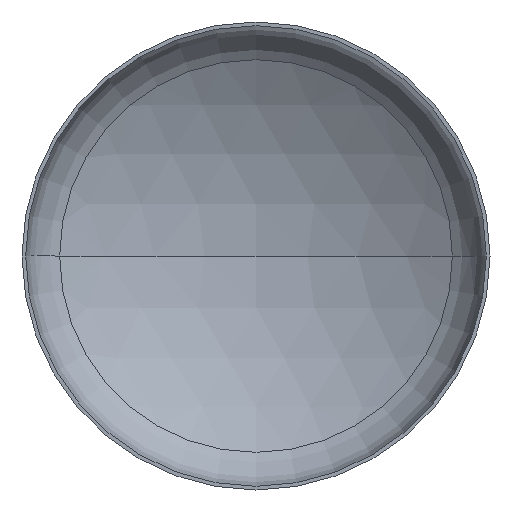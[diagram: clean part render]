
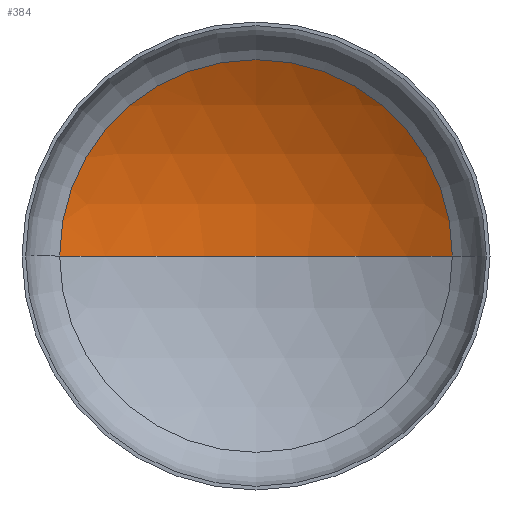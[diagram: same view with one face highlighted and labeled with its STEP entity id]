
A CAD part, front view. The second image highlights one B-rep face of the part: STEP entity #384.
In plain terms, the highlighted spherical face has radius 1520 mm.
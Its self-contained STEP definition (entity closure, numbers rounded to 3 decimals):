
#7 = VERTEX_POINT ( 'NONE', #266 ) ;
#19 = EDGE_LOOP ( 'NONE', ( #33, #29, #122 ) ) ;
#29 = ORIENTED_EDGE ( 'NONE', *, *, #101, .T. ) ;
#33 = ORIENTED_EDGE ( 'NONE', *, *, #142, .F. ) ;
#47 = AXIS2_PLACEMENT_3D ( 'NONE', #348, #211, #153 ) ;
#51 = AXIS2_PLACEMENT_3D ( 'NONE', #230, #224, #220 ) ;
#53 = AXIS2_PLACEMENT_3D ( 'NONE', #304, #300, #297 ) ;
#79 = VERTEX_POINT ( 'NONE', #286 ) ;
#97 = EDGE_CURVE ( 'NONE', #7, #79, #369, .T. ) ;
#101 = EDGE_CURVE ( 'NONE', #124, #7, #302, .T. ) ;
#122 = ORIENTED_EDGE ( 'NONE', *, *, #97, .T. ) ;
#124 = VERTEX_POINT ( 'NONE', #229 ) ;
#142 = EDGE_CURVE ( 'NONE', #124, #79, #245, .T. ) ;
#153 = DIRECTION ( 'NONE',  ( 1., 0., 0. ) ) ;
#154 = DIRECTION ( 'NONE',  ( 0., 0., -1. ) ) ;
#211 = DIRECTION ( 'NONE',  ( 0., 0., 1. ) ) ;
#220 = DIRECTION ( 'NONE',  ( -1., 0., 0. ) ) ;
#224 = DIRECTION ( 'NONE',  ( 0., 0., -1. ) ) ;
#229 = CARTESIAN_POINT ( 'NONE',  ( 0., 517.682, 0. ) ) ;
#230 = CARTESIAN_POINT ( 'NONE',  ( 0., -1002.318, 0. ) ) ;
#245 = CIRCLE ( 'NONE', #47, 1520. ) ;
#263 = FACE_OUTER_BOUND ( 'NONE', #19, .T. ) ;
#266 = CARTESIAN_POINT ( 'NONE',  ( 797.073, 291.929, 0. ) ) ;
#286 = CARTESIAN_POINT ( 'NONE',  ( -797.073, 291.929, 0. ) ) ;
#297 = DIRECTION ( 'NONE',  ( 1., 0., 0. ) ) ;
#300 = DIRECTION ( 'NONE',  ( 0., -1., 0. ) ) ;
#302 = CIRCLE ( 'NONE', #51, 1520. ) ;
#304 = CARTESIAN_POINT ( 'NONE',  ( 0., 291.929, 0. ) ) ;
#348 = CARTESIAN_POINT ( 'NONE',  ( 0., -1002.318, 0. ) ) ;
#369 = CIRCLE ( 'NONE', #53, 797.073 ) ;
#374 = CARTESIAN_POINT ( 'NONE',  ( 0., -1002.318, 0. ) ) ;
#379 = DIRECTION ( 'NONE',  ( -1., 0., 0. ) ) ;
#380 = SPHERICAL_SURFACE ( 'NONE', #404, 1520. ) ;
#384 = ADVANCED_FACE ( 'NONE', ( #263 ), #380, .F. ) ;
#404 = AXIS2_PLACEMENT_3D ( 'NONE', #374, #154, #379 ) ;
